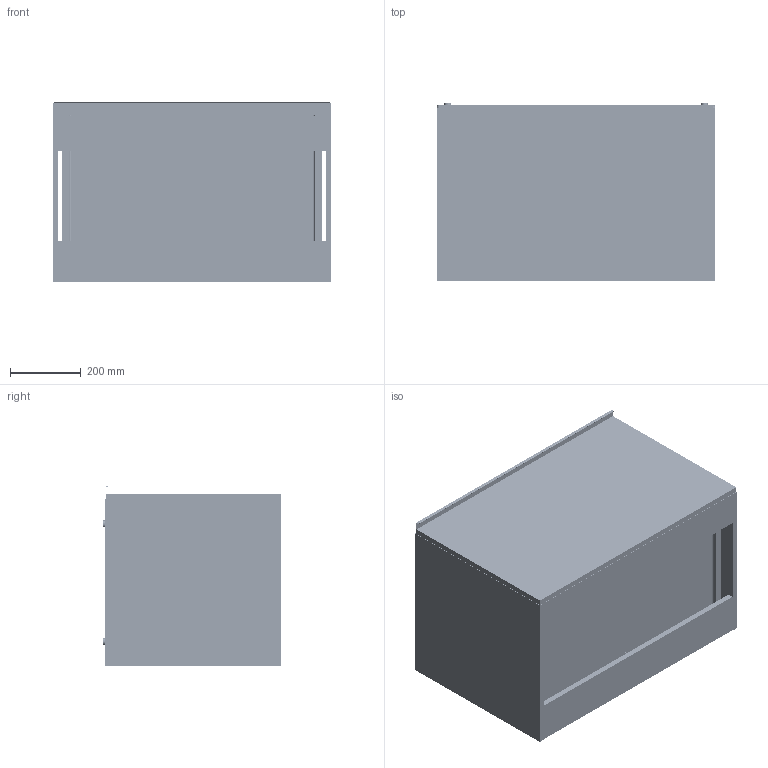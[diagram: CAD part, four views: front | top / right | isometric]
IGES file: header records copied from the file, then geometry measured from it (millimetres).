
Start section: SolidWorks IGES file using analytic representation for surfaces
Global section: file name: \\PDM-SQL\Technolodzy\WYROBY\_Nowa dokumentacja\SZAFKA VIGOUR 80 1S+1S - 167928, 167929, 167930\SZAFKA 80 1S.IGS; native system: SolidWorks 2012; preprocessor: SolidWorks 2012; author: rkopecki; date: 200625.125724; units: millimetre
Bounding box: 790 x 504.5 x 512.55 mm (x, y, z)
Surface area: 5068371.8 mm2 (no closed solid volume)
Topology: 0 solids, 4 shells, 1933 faces, 23065 edges, 22762 vertices
Faces by surface type: bspline 985, revolution 948
